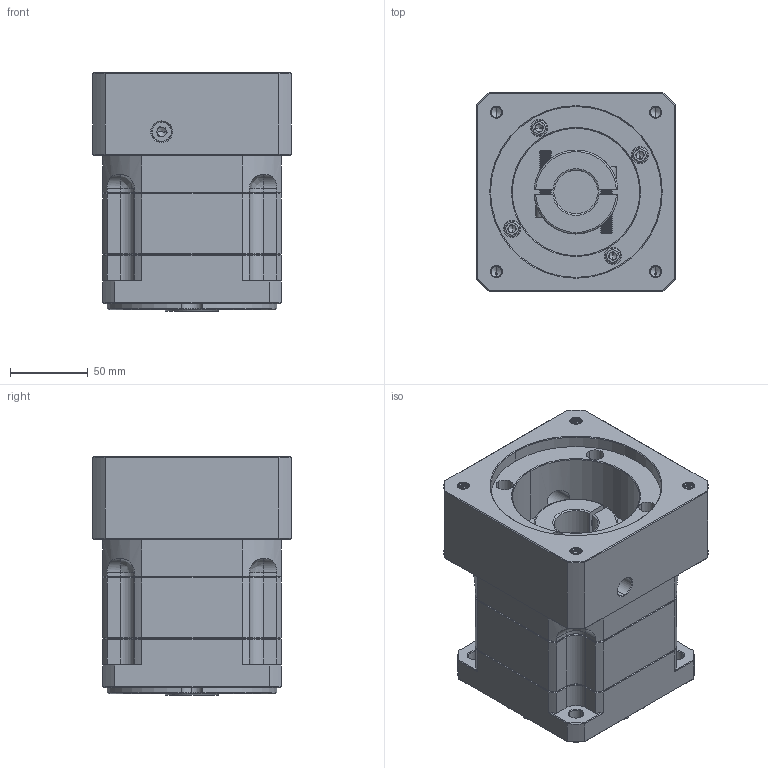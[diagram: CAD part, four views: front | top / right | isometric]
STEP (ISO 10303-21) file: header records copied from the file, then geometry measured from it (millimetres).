
FILE_DESCRIPTION (( 'STEP AP214' ), '1' );
FILE_NAME ('ZB115A-K25-L1-P2-28-110-145-M8.step', '2023-08-26T06:36:22', ( '' ), ( '' ), 'SwSTEP 2.0', 'SolidWorks 2016', '' );
FILE_SCHEMA (( 'AUTOMOTIVE_DESIGN' ));
Length unit declared in the file: millimetre
Products named in the file (1): ZB115A-K25-L1-P2-28-110-145-M8
Bounding box: 128 x 128 x 153.5 mm (x, y, z)
Volume: 1714813.7 mm3; surface area: 181746.6 mm2
Topology: 6 solids, 6 shells, 2335 faces, 6132 edges, 3896 vertices
Faces by surface type: plane 1136, bspline 414, cylinder 406, cone 359, torus 20
Entity records: 123403 total; most frequent: CARTESIAN_POINT 43513, ORIENTED_EDGE 12200, DIRECTION 9693, EDGE_CURVE 6100, LINE 3941, VECTOR 3941, VERTEX_POINT 3896, AXIS2_PLACEMENT_3D 2876
